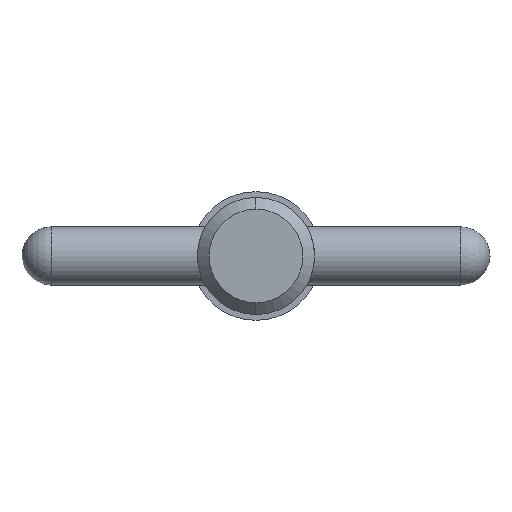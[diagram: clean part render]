
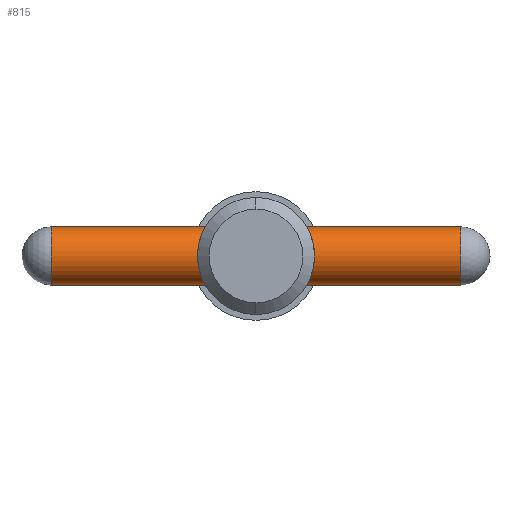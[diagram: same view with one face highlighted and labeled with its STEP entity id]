
A CAD part, left-side view. The second image highlights one B-rep face of the part: STEP entity #815.
In plain terms, the highlighted cylindrical face has radius 1.585 mm (diameter 3.17 mm), a partial arc.
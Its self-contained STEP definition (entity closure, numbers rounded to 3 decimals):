
#73 = DIRECTION ( 'NONE',  ( 0., -1., 0. ) ) ;
#88 = CARTESIAN_POINT ( 'NONE',  ( 0., 12.7, 1.585 ) ) ;
#129 = DIRECTION ( 'NONE',  ( 0., -1., 0. ) ) ;
#154 = DIRECTION ( 'NONE',  ( 0., -1., 0. ) ) ;
#159 = FACE_OUTER_BOUND ( 'NONE', #537, .T. ) ;
#184 = AXIS2_PLACEMENT_3D ( 'NONE', #767, #73, #380 ) ;
#190 = ORIENTED_EDGE ( 'NONE', *, *, #853, .F. ) ;
#203 = CARTESIAN_POINT ( 'NONE',  ( 0., 11.115, 1.585 ) ) ;
#206 = DIRECTION ( 'NONE',  ( 0., 0., -1. ) ) ;
#225 = VERTEX_POINT ( 'NONE', #263 ) ;
#263 = CARTESIAN_POINT ( 'NONE',  ( 0., -11.115, 1.585 ) ) ;
#278 = VECTOR ( 'NONE', #296, 1000. ) ;
#296 = DIRECTION ( 'NONE',  ( 0., -1., 0. ) ) ;
#297 = EDGE_CURVE ( 'NONE', #576, #225, #388, .T. ) ;
#299 = CARTESIAN_POINT ( 'NONE',  ( 0., 11.115, -1.585 ) ) ;
#320 = ORIENTED_EDGE ( 'NONE', *, *, #740, .T. ) ;
#334 = ORIENTED_EDGE ( 'NONE', *, *, #527, .T. ) ;
#380 = DIRECTION ( 'NONE',  ( 0., 0., -1. ) ) ;
#388 = CIRCLE ( 'NONE', #897, 1.585 ) ;
#409 = VERTEX_POINT ( 'NONE', #299 ) ;
#493 = CARTESIAN_POINT ( 'NONE',  ( 0., 11.115, 0. ) ) ;
#527 = EDGE_CURVE ( 'NONE', #545, #409, #588, .T. ) ;
#537 = EDGE_LOOP ( 'NONE', ( #190, #334, #320, #892 ) ) ;
#545 = VERTEX_POINT ( 'NONE', #203 ) ;
#547 = CARTESIAN_POINT ( 'NONE',  ( 0., 12.7, -1.585 ) ) ;
#576 = VERTEX_POINT ( 'NONE', #980 ) ;
#588 = CIRCLE ( 'NONE', #746, 1.585 ) ;
#728 = DIRECTION ( 'NONE',  ( 0., 1., 0. ) ) ;
#740 = EDGE_CURVE ( 'NONE', #409, #576, #917, .T. ) ;
#746 = AXIS2_PLACEMENT_3D ( 'NONE', #493, #129, #206 ) ;
#767 = CARTESIAN_POINT ( 'NONE',  ( 0., 12.7, 0. ) ) ;
#775 = CYLINDRICAL_SURFACE ( 'NONE', #184, 1.585 ) ;
#798 = VECTOR ( 'NONE', #154, 1000. ) ;
#815 = ADVANCED_FACE ( 'NONE', ( #159 ), #775, .T. ) ;
#848 = LINE ( 'NONE', #88, #798 ) ;
#853 = EDGE_CURVE ( 'NONE', #545, #225, #848, .T. ) ;
#862 = DIRECTION ( 'NONE',  ( 0., 0., -1. ) ) ;
#892 = ORIENTED_EDGE ( 'NONE', *, *, #297, .T. ) ;
#897 = AXIS2_PLACEMENT_3D ( 'NONE', #957, #728, #862 ) ;
#917 = LINE ( 'NONE', #547, #278 ) ;
#957 = CARTESIAN_POINT ( 'NONE',  ( 0., -11.115, 0. ) ) ;
#980 = CARTESIAN_POINT ( 'NONE',  ( 0., -11.115, -1.585 ) ) ;
